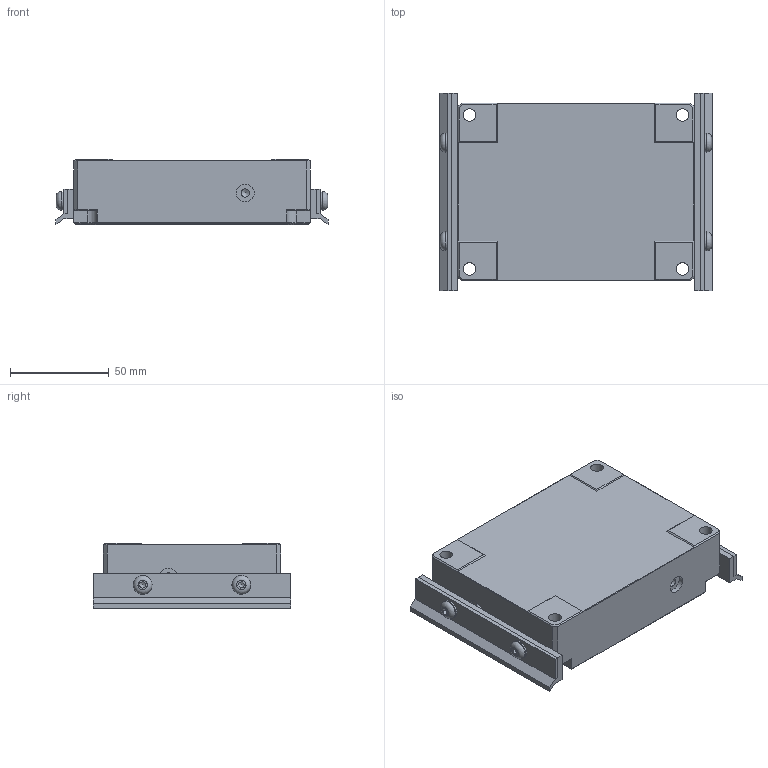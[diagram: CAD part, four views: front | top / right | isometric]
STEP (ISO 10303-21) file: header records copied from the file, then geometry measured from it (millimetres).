
FILE_DESCRIPTION(/* description */ ('Assieme'),/* implementation_level */ '2;1');
FILE_NAME(/* name */ 'C:\VAULT\ARCHIVIO\MAGER\PATTINI\CARTELLA COSTRUZIONE PATTINI HRA\HRA2010\WF10101H3300_AIRPAD HRA-2010FTW.stp',/* time_stamp */ '2021-02-22T11:03:42+01:00',/* author */ ('Roberto Cucit'),/* organization */ (''),/* preprocessor_version */ 'ST-DEVELOPER v17',/* originating_system */ 'Autodesk Inventor 2018',/* authorisation */ '');
FILE_SCHEMA (('AUTOMOTIVE_DESIGN { 1 0 10303 214 3 1 1 }'));
Length unit declared in the file: millimetre
Products named in the file (6): WF10101H3300_AIRPAD HRA-2010FT; WLP0100H33000_AIRPAD HRA-2010FT_corpo; WL10140020000; C0101-520530; C0103-020005; W000000593100
Assembly tree (8 placements, depth 3):
  WF10101H3300_AIRPAD HRA-2010FT
    WLP0100H33000_AIRPAD HRA-2010FT_corpo
    WL10140020000  x2
      C0101-520530
      C0103-020005
      W000000593100
Bounding box: 138 x 100 x 33 mm (x, y, z)
Volume: 356193.5 mm3; surface area: 57927 mm2
Topology: 13 solids, 13 shells, 272 faces, 678 edges, 446 vertices
Faces by surface type: plane 176, cylinder 54, cone 34, torus 8
Full cylindrical faces by diameter (mm): 4.134 x8, 5 x4, 5.3 x4, 6 x8, 6.4 x4, 8.566 x6, 9 x4, 9.5 x8
Entity records: 6068 total; most frequent: DIRECTION 1034, CARTESIAN_POINT 1014, ORIENTED_EDGE 956, EDGE_CURVE 478, AXIS2_PLACEMENT_3D 354, LINE 326, VECTOR 326, VERTEX_POINT 313
